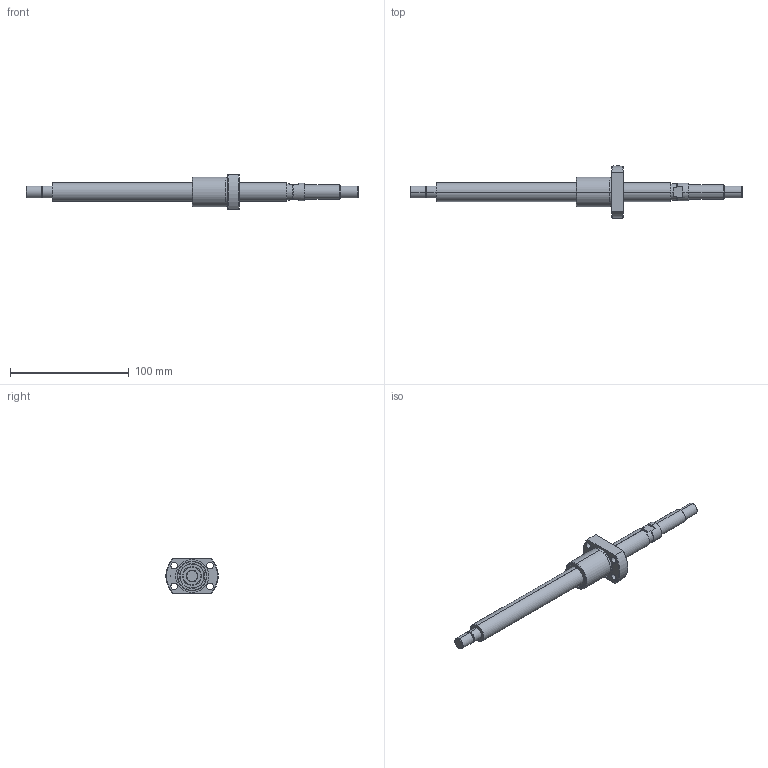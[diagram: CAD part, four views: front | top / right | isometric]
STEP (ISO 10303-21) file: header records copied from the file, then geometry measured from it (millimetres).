
FILE_DESCRIPTION (( 'STEP AP214' ), '1' );
FILE_NAME ('BS1602K-3D.STEP', '2014-03-05T15:13:55', ( '' ), ( '' ), 'SwSTEP 2.0', 'SolidWorks 2012', '' );
FILE_SCHEMA (( 'AUTOMOTIVE_DESIGN' ));
Length unit declared in the file: millimetre
Products named in the file (3): BS1602Kナット; BS1602KŽ²; BS1602K-3D
Assembly tree (2 placements, depth 2):
  BS1602K-3D
    BS1602KŽ²
    BS1602Kナット
Bounding box: 280 x 43.93 x 29 mm (x, y, z)
Volume: 100037.7 mm3; surface area: 32753.7 mm2
Topology: 6 solids, 6 shells, 119 faces, 264 edges, 167 vertices
Faces by surface type: cylinder 55, plane 33, cone 31
Entity records: 3732 total; most frequent: CARTESIAN_POINT 768, DIRECTION 633, ORIENTED_EDGE 528, AXIS2_PLACEMENT_3D 266, EDGE_CURVE 264, VERTEX_POINT 167, EDGE_LOOP 147, CIRCLE 142
